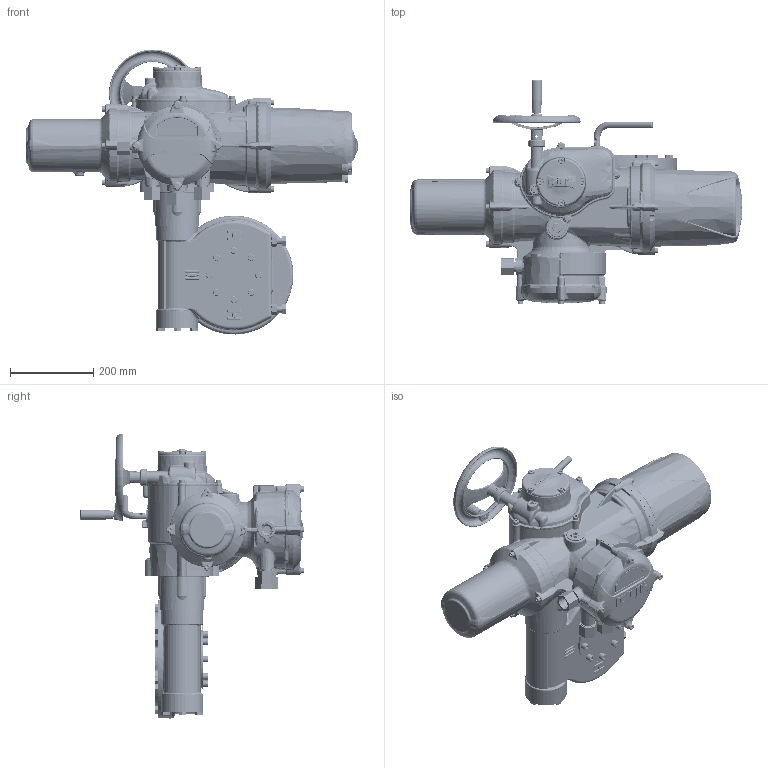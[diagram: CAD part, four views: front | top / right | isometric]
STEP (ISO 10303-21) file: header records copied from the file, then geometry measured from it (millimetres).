
FILE_DESCRIPTION( ( 'Unknown' ), '1' );
FILE_NAME( 'S:/DocsUnderChange/DrawingsFromMTMS/InstallationDrgs/Standardised drawings/IQ3/IWD/II2SHWIWD5STD-1.stp', 'Unknown', ( 'Unknown' ), ( 'Unknown' ), 'PSStep 17.0.49', 'Unknown', ' ' );
FILE_SCHEMA( ( 'AUTOMOTIVE_DESIGN { 1 0 10303 214 1 1 1 1 }' ) );
Length unit declared in the file: millimetre
Products named in the file (10): II0-55-std
Bounding box: 795.75 x 537.85 x 683.15 mm (x, y, z)
Volume: 569743.3 mm3; surface area: 1502230.2 mm2
Topology: 65 solids, 67 shells, 6938 faces, 17225 edges, 10284 vertices
Faces by surface type: bspline 2409, plane 1899, cylinder 981, cone 649, torus 629, sphere 208, extrusion 118, offset 24, revolution 21
Full cylindrical faces by diameter (mm): 1.152 x1, 3 x8, 6 x3, 6.2 x2, 6.45 x8, 6.47 x8, 6.5 x1, 7 x4, 7.6 x4, 8 x21, 8.1 x1, 8.2 x1, 8.5 x4, 9.7 x2, 10 x21, 10.3 x8, 10.5 x16, 10.625 x4, 11 x8, 11.78 x1, 12.1 x1, 13 x17, 13.25 x4, 14 x1, 14.376 x5, 15.5 x1, 15.84 x1, 16 x13, 16.75 x1, 17.02 x1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
Entity records: 648406 total; most frequent: CARTESIAN_POINT 453024, ORIENTED_EDGE 32266, DIRECTION 24074, EDGE_CURVE 16133, AXIS2_PLACEMENT_3D 10096, VERTEX_POINT 9984, EDGE_LOOP 7688, FACE_OUTER_BOUND 7218
